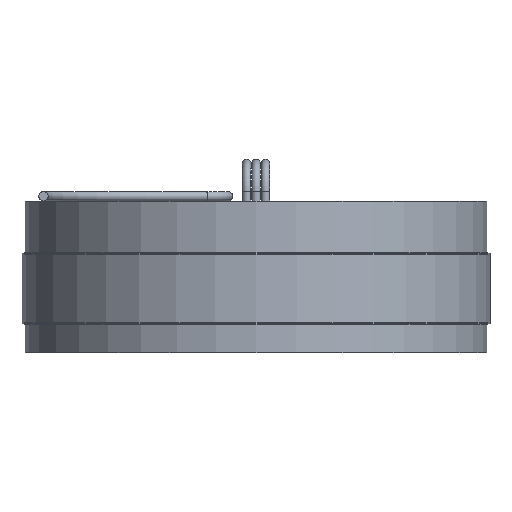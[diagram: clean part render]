
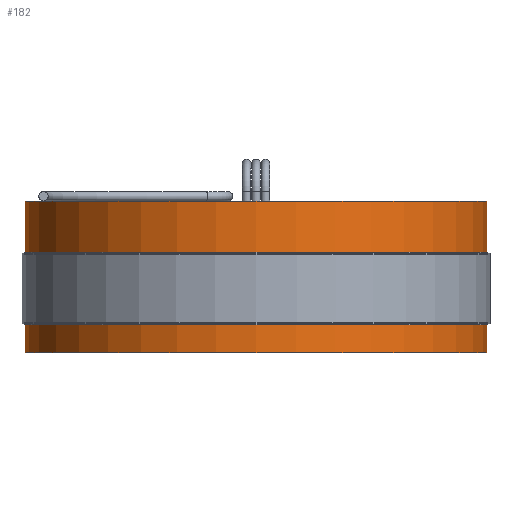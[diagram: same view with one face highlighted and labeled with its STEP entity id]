
A CAD part, front view. The second image highlights one B-rep face of the part: STEP entity #182.
In plain terms, the highlighted cylindrical face has radius 62.611 mm (diameter 125.222 mm), a full revolution.
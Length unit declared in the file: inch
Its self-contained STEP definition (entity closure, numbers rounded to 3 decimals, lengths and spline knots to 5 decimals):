
#42 = CIRCLE ( 'NONE', #184, 2.465 ) ;
#72 = CARTESIAN_POINT ( 'NONE',  ( 2.465, 0., -0.685 ) ) ;
#75 = CARTESIAN_POINT ( 'NONE',  ( 0., 0., -0.685 ) ) ;
#78 = ORIENTED_EDGE ( 'NONE', *, *, #850, .F. ) ;
#92 = EDGE_CURVE ( 'NONE', #242, #242, #42, .T. ) ;
#162 = VERTEX_POINT ( 'NONE', #517 ) ;
#182 = ADVANCED_FACE ( 'NONE', ( #744, #1372 ), #709, .T. ) ;
#184 = AXIS2_PLACEMENT_3D ( 'NONE', #75, #190, #852 ) ;
#190 = DIRECTION ( 'NONE',  ( 0., 0., 1. ) ) ;
#234 = ORIENTED_EDGE ( 'NONE', *, *, #92, .T. ) ;
#242 = VERTEX_POINT ( 'NONE', #72 ) ;
#324 = CARTESIAN_POINT ( 'NONE',  ( 0., 0., -0.685 ) ) ;
#346 = EDGE_LOOP ( 'NONE', ( #234 ) ) ;
#439 = EDGE_LOOP ( 'NONE', ( #78 ) ) ;
#517 = CARTESIAN_POINT ( 'NONE',  ( 2.465, 0., 0.935 ) ) ;
#709 = CYLINDRICAL_SURFACE ( 'NONE', #1207, 2.465 ) ;
#734 = CARTESIAN_POINT ( 'NONE',  ( 0., 0., 0.935 ) ) ;
#744 = FACE_OUTER_BOUND ( 'NONE', #346, .T. ) ;
#850 = EDGE_CURVE ( 'NONE', #162, #162, #1104, .T. ) ;
#852 = DIRECTION ( 'NONE',  ( 1., 0., 0. ) ) ;
#914 = AXIS2_PLACEMENT_3D ( 'NONE', #734, #1078, #953 ) ;
#953 = DIRECTION ( 'NONE',  ( 1., 0., 0. ) ) ;
#960 = DIRECTION ( 'NONE',  ( 0., 0., 1. ) ) ;
#1011 = DIRECTION ( 'NONE',  ( 1., 0., 0. ) ) ;
#1078 = DIRECTION ( 'NONE',  ( 0., 0., 1. ) ) ;
#1104 = CIRCLE ( 'NONE', #914, 2.465 ) ;
#1207 = AXIS2_PLACEMENT_3D ( 'NONE', #324, #960, #1011 ) ;
#1372 = FACE_OUTER_BOUND ( 'NONE', #439, .T. ) ;
